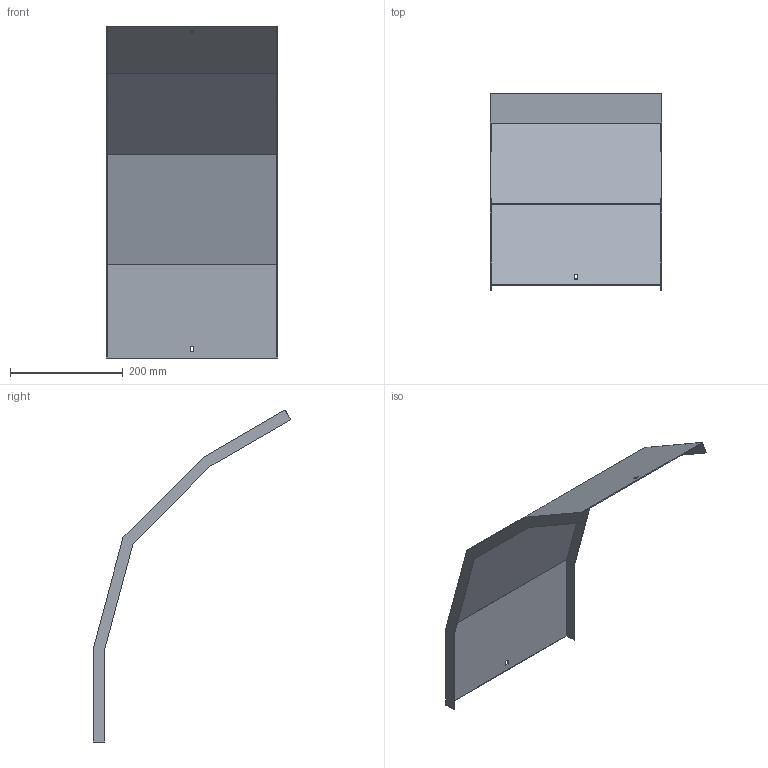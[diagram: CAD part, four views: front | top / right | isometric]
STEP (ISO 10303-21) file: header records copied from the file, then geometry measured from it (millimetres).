
FILE_DESCRIPTION (( 'STEP AP214' ), '1' );
FILE_NAME ('A2_41N3D300.step', '2025-02-21T10:40:00', ( '' ), ( '' ), 'SwSTEP 2.0', 'SolidWorks 2023', '' );
FILE_SCHEMA (( 'AUTOMOTIVE_DESIGN' ));
Length unit declared in the file: millimetre
Products named in the file (1): A2_41N3D300
Bounding box: 303 x 349.52 x 588.06 mm (x, y, z)
Volume: 374826 mm3; surface area: 503031.4 mm2
Topology: 1 solids, 1 shells, 30 faces, 84 edges, 56 vertices
Faces by surface type: plane 30
Entity records: 979 total; most frequent: CARTESIAN_POINT 171, ORIENTED_EDGE 168, DIRECTION 146, VECTOR 84, LINE 84, EDGE_CURVE 84, VERTEX_POINT 56, EDGE_LOOP 34
